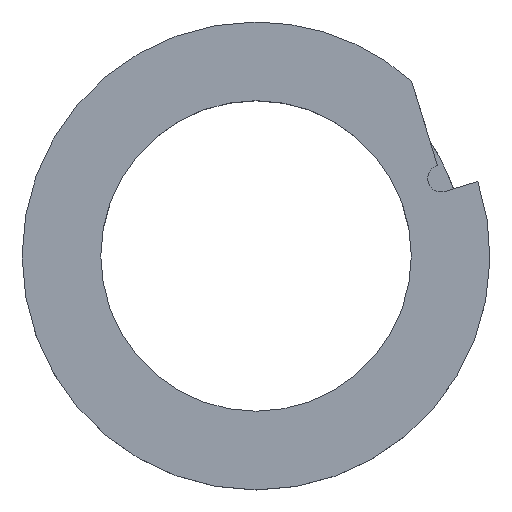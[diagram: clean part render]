
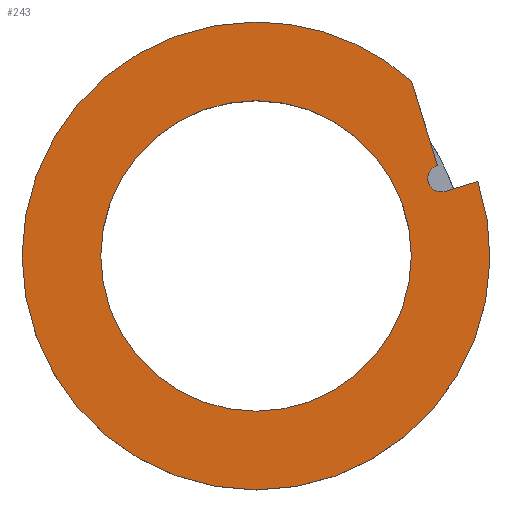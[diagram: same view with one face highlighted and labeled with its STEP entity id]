
A CAD part, top view. The second image highlights one B-rep face of the part: STEP entity #243.
In plain terms, the highlighted planar face has unit normal (0, 0, 1).
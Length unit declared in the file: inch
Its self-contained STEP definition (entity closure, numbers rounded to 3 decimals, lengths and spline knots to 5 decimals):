
#21 = CARTESIAN_POINT ( 'NONE',  ( 0., 0., 3.22116 ) ) ;
#22 = EDGE_LOOP ( 'NONE', ( #890, #274, #671, #695, #485, #303, #743 ) ) ;
#65 = VERTEX_POINT ( 'NONE', #479 ) ;
#71 = VERTEX_POINT ( 'NONE', #642 ) ;
#77 = CARTESIAN_POINT ( 'NONE',  ( 0., -1.43701, 3.22116 ) ) ;
#84 = DIRECTION ( 'NONE',  ( 0., 0., 1. ) ) ;
#95 = CARTESIAN_POINT ( 'NONE',  ( 0., 2.16535, 3.22116 ) ) ;
#97 = AXIS2_PLACEMENT_3D ( 'NONE', #212, #765, #399 ) ;
#103 = DIRECTION ( 'NONE',  ( 0., 0., 1. ) ) ;
#132 = CARTESIAN_POINT ( 'NONE',  ( 1.67861, 0.83844, 3.22116 ) ) ;
#133 = CARTESIAN_POINT ( 'NONE',  ( 0., 0., 3.22116 ) ) ;
#134 = CARTESIAN_POINT ( 'NONE',  ( 0., 0., 3.22116 ) ) ;
#158 = EDGE_CURVE ( 'NONE', #827, #596, #184, .T. ) ;
#161 = VERTEX_POINT ( 'NONE', #789 ) ;
#176 = EDGE_CURVE ( 'NONE', #328, #438, #270, .T. ) ;
#184 = CIRCLE ( 'NONE', #684, 2.16535 ) ;
#196 = EDGE_LOOP ( 'NONE', ( #815, #466 ) ) ;
#210 = CIRCLE ( 'NONE', #790, 1.43701 ) ;
#212 = CARTESIAN_POINT ( 'NONE',  ( 1.71544, 0.71796, 3.22116 ) ) ;
#223 = DIRECTION ( 'NONE',  ( 0., -1., 0. ) ) ;
#230 = FACE_BOUND ( 'NONE', #196, .T. ) ;
#234 = DIRECTION ( 'NONE',  ( 0., 1., 0. ) ) ;
#243 = ADVANCED_FACE ( 'NONE', ( #230, #360 ), #633, .T. ) ;
#245 = CARTESIAN_POINT ( 'NONE',  ( 0., 0., 3.22116 ) ) ;
#260 = DIRECTION ( 'NONE',  ( -0.956, -0.292, 0. ) ) ;
#266 = CARTESIAN_POINT ( 'NONE',  ( 2.0527, 0.68933, 3.22116 ) ) ;
#270 = CIRCLE ( 'NONE', #472, 2.16535 ) ;
#274 = ORIENTED_EDGE ( 'NONE', *, *, #441, .T. ) ;
#284 = AXIS2_PLACEMENT_3D ( 'NONE', #568, #508, #223 ) ;
#303 = ORIENTED_EDGE ( 'NONE', *, *, #734, .T. ) ;
#315 = CIRCLE ( 'NONE', #588, 1.43701 ) ;
#328 = VERTEX_POINT ( 'NONE', #530 ) ;
#344 = DIRECTION ( 'NONE',  ( 0., 1., 0. ) ) ;
#350 = EDGE_CURVE ( 'NONE', #438, #852, #394, .T. ) ;
#360 = FACE_OUTER_BOUND ( 'NONE', #22, .T. ) ;
#362 = CARTESIAN_POINT ( 'NONE',  ( 1.75227, 0.59748, 3.22116 ) ) ;
#363 = EDGE_CURVE ( 'NONE', #71, #475, #210, .T. ) ;
#389 = CIRCLE ( 'NONE', #878, 0.12598 ) ;
#390 = DIRECTION ( 'NONE',  ( 0., 1., 0. ) ) ;
#394 = LINE ( 'NONE', #808, #602 ) ;
#399 = DIRECTION ( 'NONE',  ( 0., -1., 0. ) ) ;
#410 = DIRECTION ( 'NONE',  ( 0., 0., -1. ) ) ;
#413 = DIRECTION ( 'NONE',  ( 0., -1., 0. ) ) ;
#420 = CARTESIAN_POINT ( 'NONE',  ( 0., 0., 3.22116 ) ) ;
#438 = VERTEX_POINT ( 'NONE', #266 ) ;
#441 = EDGE_CURVE ( 'NONE', #596, #328, #730, .T. ) ;
#461 = CIRCLE ( 'NONE', #97, 0.12598 ) ;
#466 = ORIENTED_EDGE ( 'NONE', *, *, #526, .T. ) ;
#472 = AXIS2_PLACEMENT_3D ( 'NONE', #245, #84, #234 ) ;
#475 = VERTEX_POINT ( 'NONE', #77 ) ;
#477 = LINE ( 'NONE', #132, #604 ) ;
#479 = CARTESIAN_POINT ( 'NONE',  ( 1.71544, 0.59197, 3.22116 ) ) ;
#484 = DIRECTION ( 'NONE',  ( 0., 0., 1. ) ) ;
#485 = ORIENTED_EDGE ( 'NONE', *, *, #643, .T. ) ;
#508 = DIRECTION ( 'NONE',  ( 0., 0., 1. ) ) ;
#526 = EDGE_CURVE ( 'NONE', #475, #71, #315, .T. ) ;
#530 = CARTESIAN_POINT ( 'NONE',  ( 0., -2.16535, 3.22116 ) ) ;
#568 = CARTESIAN_POINT ( 'NONE',  ( 1.43701, 0., 3.22116 ) ) ;
#574 = CARTESIAN_POINT ( 'NONE',  ( 1.44073, 1.6165, 3.22116 ) ) ;
#580 = DIRECTION ( 'NONE',  ( 0., 1., 0. ) ) ;
#588 = AXIS2_PLACEMENT_3D ( 'NONE', #133, #410, #344 ) ;
#596 = VERTEX_POINT ( 'NONE', #95 ) ;
#602 = VECTOR ( 'NONE', #260, 39.37008 ) ;
#604 = VECTOR ( 'NONE', #615, 39.37008 ) ;
#615 = DIRECTION ( 'NONE',  ( -0.292, 0.956, 0. ) ) ;
#620 = CARTESIAN_POINT ( 'NONE',  ( 1.71544, 0.71796, 3.22116 ) ) ;
#628 = DIRECTION ( 'NONE',  ( 0., 1., 0. ) ) ;
#633 = PLANE ( 'NONE',  #284 ) ;
#642 = CARTESIAN_POINT ( 'NONE',  ( 0., 1.43701, 3.22116 ) ) ;
#643 = EDGE_CURVE ( 'NONE', #852, #65, #389, .T. ) ;
#671 = ORIENTED_EDGE ( 'NONE', *, *, #176, .T. ) ;
#681 = DIRECTION ( 'NONE',  ( 0., 0., -1. ) ) ;
#684 = AXIS2_PLACEMENT_3D ( 'NONE', #21, #103, #580 ) ;
#695 = ORIENTED_EDGE ( 'NONE', *, *, #350, .T. ) ;
#730 = CIRCLE ( 'NONE', #817, 2.16535 ) ;
#734 = EDGE_CURVE ( 'NONE', #65, #161, #461, .T. ) ;
#743 = ORIENTED_EDGE ( 'NONE', *, *, #761, .T. ) ;
#761 = EDGE_CURVE ( 'NONE', #161, #827, #477, .T. ) ;
#765 = DIRECTION ( 'NONE',  ( 0., 0., -1. ) ) ;
#789 = CARTESIAN_POINT ( 'NONE',  ( 1.67861, 0.83844, 3.22116 ) ) ;
#790 = AXIS2_PLACEMENT_3D ( 'NONE', #134, #798, #390 ) ;
#798 = DIRECTION ( 'NONE',  ( 0., 0., -1. ) ) ;
#808 = CARTESIAN_POINT ( 'NONE',  ( 2.0527, 0.68933, 3.22116 ) ) ;
#815 = ORIENTED_EDGE ( 'NONE', *, *, #363, .T. ) ;
#817 = AXIS2_PLACEMENT_3D ( 'NONE', #420, #484, #628 ) ;
#827 = VERTEX_POINT ( 'NONE', #574 ) ;
#852 = VERTEX_POINT ( 'NONE', #362 ) ;
#878 = AXIS2_PLACEMENT_3D ( 'NONE', #620, #681, #413 ) ;
#890 = ORIENTED_EDGE ( 'NONE', *, *, #158, .T. ) ;
